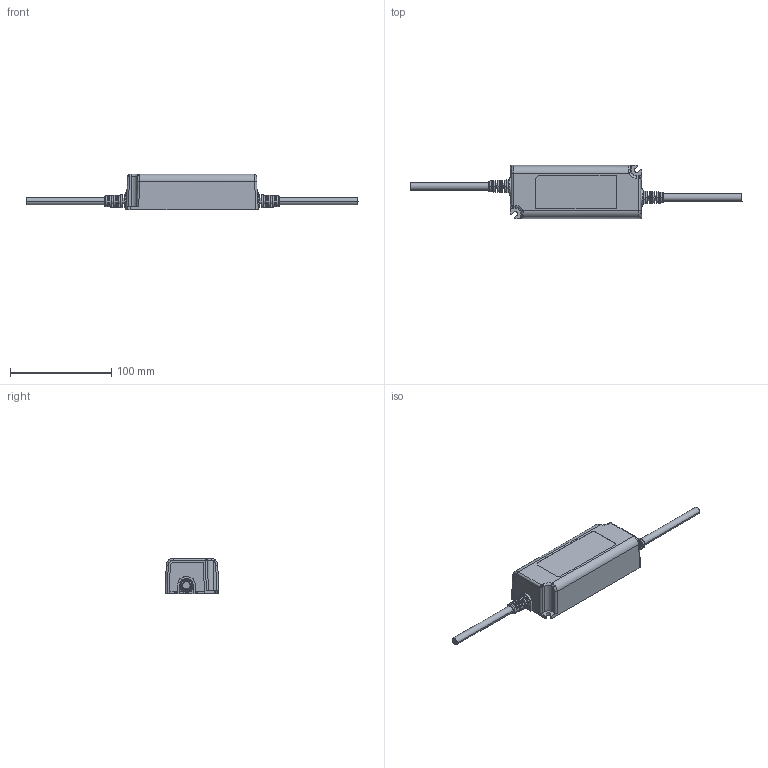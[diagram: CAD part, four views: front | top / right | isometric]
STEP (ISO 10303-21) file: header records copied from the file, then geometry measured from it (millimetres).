
FILE_DESCRIPTION((''),'2;1');
FILE_NAME('BASE_3','2026-04-28T13:48:21',('shalinice'),(''),'CREO PARAMETRIC BY PTC INC, 2017110','CREO PARAMETRIC BY PTC INC, 2017110','');
FILE_SCHEMA(('AUTOMOTIVE_DESIGN { 1 0 10303 214 1 1 1 1 }'));
Length unit declared in the file: millimetre
Products named in the file (1): BASE_3
Bounding box: 328.42 x 53 x 35 mm (x, y, z)
Volume: 111706.4 mm3; surface area: 84367.9 mm2
Topology: 1 solids, 1 shells, 922 faces, 2684 edges, 1751 vertices
Faces by surface type: plane 527, cylinder 259, torus 67, cone 26, sphere 26, bspline 17
Entity records: 42619 total; most frequent: CARTESIAN_POINT 8489, ORIENTED_EDGE 5332, DIRECTION 4932, PRESENTATION_STYLE_ASSIGNMENT 2799, STYLED_ITEM 2667, CURVE_STYLE 2666, EDGE_CURVE 2666, VERTEX_POINT 1751
